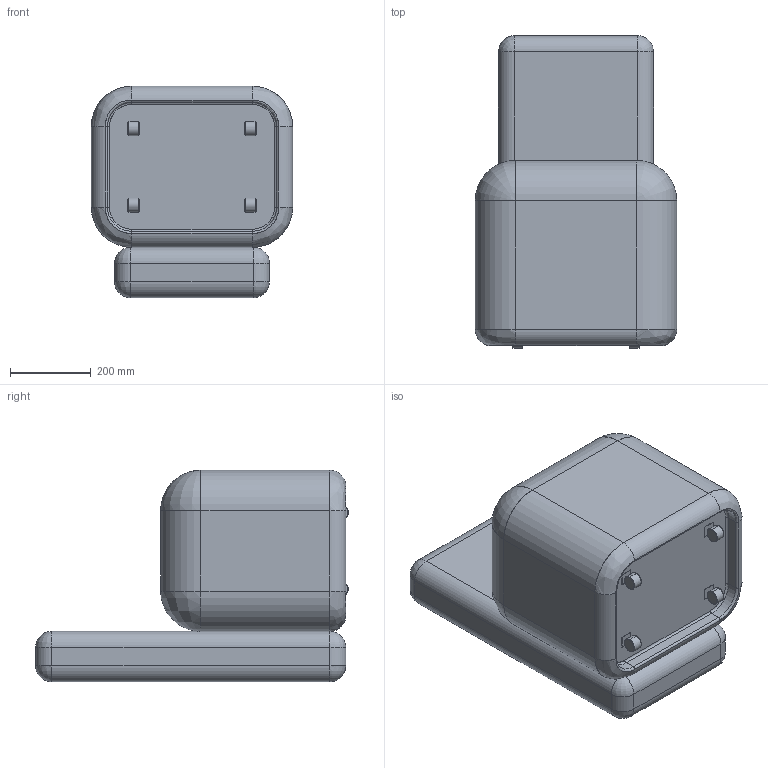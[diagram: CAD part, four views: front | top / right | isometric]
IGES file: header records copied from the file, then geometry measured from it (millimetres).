
Start section: SolidWorks IGES file using analytic representation for surfaces
Global section: file name: \\Logicserver\datos\01-VICCARBE\PRODUCTOS\51-SEASON CHAIR\04-MODELADOS (PLANOS)\20150312_season.IGS; native system: SolidWorks 2013; preprocessor: SolidWorks 2013; author: bdisenyo; date: 160212.112222; units: millimetre
Bounding box: 500 x 776.41 x 525 mm (x, y, z)
Surface area: 1888863.7 mm2 (no closed solid volume)
Topology: 0 solids, 0 shells, 144 faces, 1329 edges, 1324 vertices
Faces by surface type: bspline 80, revolution 64
